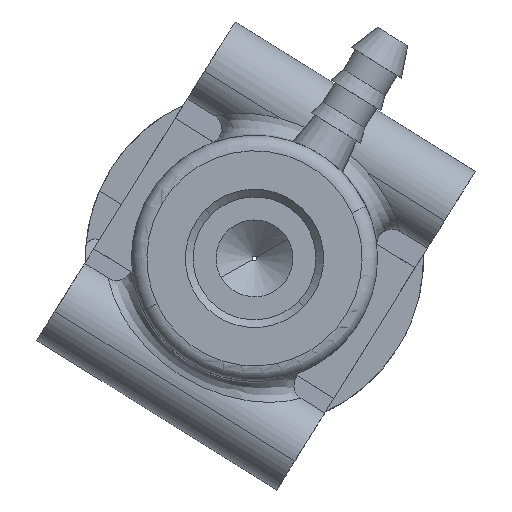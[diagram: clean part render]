
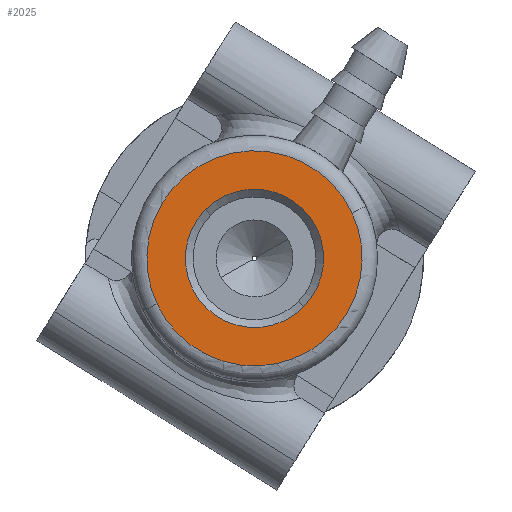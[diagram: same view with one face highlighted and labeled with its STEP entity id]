
A CAD part, front view. The second image highlights one B-rep face of the part: STEP entity #2025.
In plain terms, the highlighted planar face has unit normal (0, -1, 0).
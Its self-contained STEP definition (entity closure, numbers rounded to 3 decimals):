
#2001=AXIS2_PLACEMENT_3D('Plane Axis2P3D',#1998,#1999,#2000) ;
#2009=AXIS2_PLACEMENT_3D('Circle Axis2P3D',#2007,#2008,$) ;
#2018=AXIS2_PLACEMENT_3D('Circle Axis2P3D',#2016,#2017,$) ;
#1249=CARTESIAN_POINT('Vertex',(-172.883,-1378.001,345.045)) ;
#1256=CARTESIAN_POINT('Vertex',(-185.57,-1378.001,339.126)) ;
#1260=CARTESIAN_POINT('Control Point',(-172.883,-1378.001,345.045)) ;
#1261=CARTESIAN_POINT('Control Point',(-173.347,-1378.001,346.042)) ;
#1262=CARTESIAN_POINT('Control Point',(-174.008,-1378.001,346.947)) ;
#1263=CARTESIAN_POINT('Control Point',(-174.84,-1378.001,347.709)) ;
#1264=CARTESIAN_POINT('Control Point',(-176.759,-1378.001,348.867)) ;
#1265=CARTESIAN_POINT('Control Point',(-178.974,-1378.001,349.213)) ;
#1266=CARTESIAN_POINT('Control Point',(-180.101,-1378.001,349.163)) ;
#1267=CARTESIAN_POINT('Control Point',(-182.277,-1378.001,348.625)) ;
#1268=CARTESIAN_POINT('Control Point',(-184.087,-1378.001,347.304)) ;
#1269=CARTESIAN_POINT('Control Point',(-184.85,-1378.001,346.471)) ;
#1270=CARTESIAN_POINT('Control Point',(-186.007,-1378.001,344.552)) ;
#1271=CARTESIAN_POINT('Control Point',(-186.353,-1378.001,342.338)) ;
#1272=CARTESIAN_POINT('Control Point',(-186.304,-1378.001,341.21)) ;
#1273=CARTESIAN_POINT('Control Point',(-186.035,-1378.001,340.123)) ;
#1274=CARTESIAN_POINT('Control Point',(-185.57,-1378.001,339.126)) ;
#1298=CARTESIAN_POINT('Control Point',(-185.57,-1378.001,339.126)) ;
#1299=CARTESIAN_POINT('Control Point',(-185.105,-1378.001,338.13)) ;
#1300=CARTESIAN_POINT('Control Point',(-184.444,-1378.001,337.225)) ;
#1301=CARTESIAN_POINT('Control Point',(-183.612,-1378.001,336.462)) ;
#1302=CARTESIAN_POINT('Control Point',(-181.693,-1378.001,335.305)) ;
#1303=CARTESIAN_POINT('Control Point',(-179.479,-1378.001,334.959)) ;
#1304=CARTESIAN_POINT('Control Point',(-178.351,-1378.001,335.008)) ;
#1305=CARTESIAN_POINT('Control Point',(-176.175,-1378.001,335.546)) ;
#1306=CARTESIAN_POINT('Control Point',(-174.365,-1378.001,336.868)) ;
#1307=CARTESIAN_POINT('Control Point',(-173.602,-1378.001,337.7)) ;
#1308=CARTESIAN_POINT('Control Point',(-172.445,-1378.001,339.619)) ;
#1309=CARTESIAN_POINT('Control Point',(-172.099,-1378.001,341.833)) ;
#1310=CARTESIAN_POINT('Control Point',(-172.148,-1378.001,342.961)) ;
#1311=CARTESIAN_POINT('Control Point',(-172.418,-1378.001,344.049)) ;
#1312=CARTESIAN_POINT('Control Point',(-172.883,-1378.001,345.045)) ;
#1998=CARTESIAN_POINT('Axis2P3D Location',(-183.722,-1378.001,334.872)) ;
#2007=CARTESIAN_POINT('Axis2P3D Location',(-179.226,-1378.001,342.086)) ;
#2011=CARTESIAN_POINT('Vertex',(-182.428,-1378.001,345.248)) ;
#2013=CARTESIAN_POINT('Vertex',(-176.024,-1378.001,338.924)) ;
#2016=CARTESIAN_POINT('Axis2P3D Location',(-179.226,-1378.001,342.086)) ;
#1999=DIRECTION('Axis2P3D Direction',(0.,1.,0.)) ;
#2000=DIRECTION('Axis2P3D XDirection',(-0.529,0.,-0.849)) ;
#2008=DIRECTION('Axis2P3D Direction',(0.,1.,0.)) ;
#2017=DIRECTION('Axis2P3D Direction',(0.,1.,0.)) ;
#2004=ORIENTED_EDGE('',*,*,#1275,.T.) ;
#2005=ORIENTED_EDGE('',*,*,#1313,.T.) ;
#2022=ORIENTED_EDGE('',*,*,#2015,.T.) ;
#2023=ORIENTED_EDGE('',*,*,#2020,.T.) ;
#2024=FACE_BOUND('',#2021,.T.) ;
#2025=ADVANCED_FACE('MANIFOLD_SOLID_BREP #410',(#2006,#2024),#2002,.F.) ;
#1259=B_SPLINE_CURVE_WITH_KNOTS('',5,(#1260,#1261,#1262,#1263,#1264,#1265,#1266,#1267,#1268,#1269,#1270,#1271,#1272,#1273,#1274),.UNSPECIFIED.,.F.,.U.,(6,3,3,3,6),(0.,7.826,15.651,23.477,31.303),.UNSPECIFIED.) ;
#1297=B_SPLINE_CURVE_WITH_KNOTS('',5,(#1298,#1299,#1300,#1301,#1302,#1303,#1304,#1305,#1306,#1307,#1308,#1309,#1310,#1311,#1312),.UNSPECIFIED.,.F.,.U.,(6,3,3,3,6),(0.,7.826,15.651,23.477,31.303),.UNSPECIFIED.) ;
#2010=CIRCLE('generated circle',#2009,4.5) ;
#2019=CIRCLE('generated circle',#2018,4.5) ;
#1275=EDGE_CURVE('',#1250,#1257,#1259,.T.) ;
#1313=EDGE_CURVE('',#1257,#1250,#1297,.T.) ;
#2015=EDGE_CURVE('',#2012,#2014,#2010,.T.) ;
#2020=EDGE_CURVE('',#2014,#2012,#2019,.T.) ;
#2003=EDGE_LOOP('',(#2004,#2005)) ;
#2021=EDGE_LOOP('',(#2022,#2023)) ;
#2006=FACE_OUTER_BOUND('',#2003,.T.) ;
#2002=PLANE('',#2001) ;
#1250=VERTEX_POINT('',#1249) ;
#1257=VERTEX_POINT('',#1256) ;
#2012=VERTEX_POINT('',#2011) ;
#2014=VERTEX_POINT('',#2013) ;
